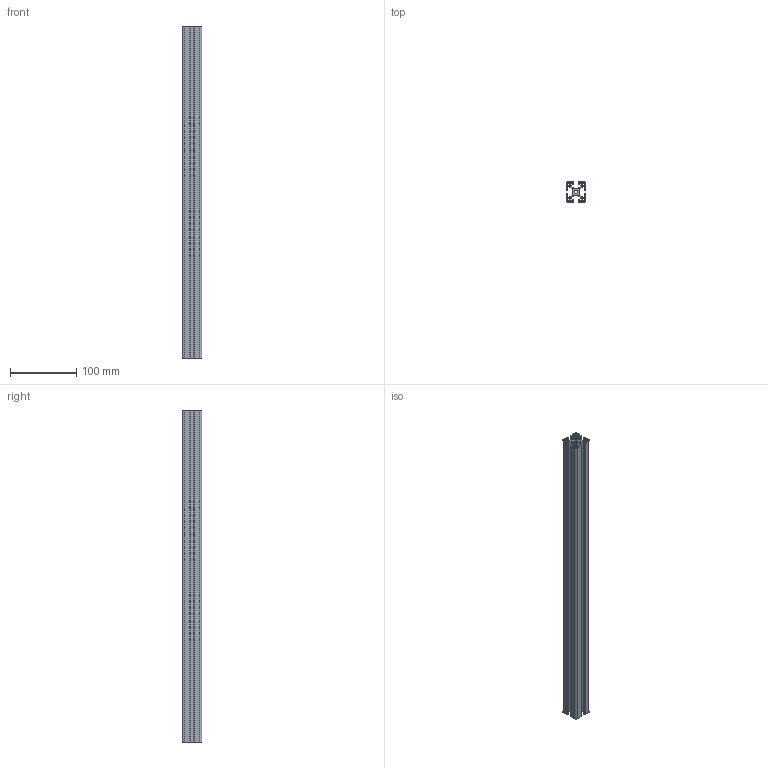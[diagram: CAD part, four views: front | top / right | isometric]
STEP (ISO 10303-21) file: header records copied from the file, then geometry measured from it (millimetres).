
FILE_DESCRIPTION (( 'STEP AP203' ), '1' );
FILE_NAME ('M ATP I6 3030L.STEP', '2012-06-04T09:13:53', ( 'alle' ), ( 'Hewlett-Packard Company' ), 'SwSTEP 2.0', 'SolidWorks 2011', '' );
FILE_SCHEMA (( 'CONFIG_CONTROL_DESIGN' ));
Length unit declared in the file: millimetre
Products named in the file (1): M ATP I6 3030L
Bounding box: 30 x 30 x 500 mm (x, y, z)
Volume: 167593.1 mm3; surface area: 168401.7 mm2
Topology: 1 solids, 1 shells, 156 faces, 462 edges, 308 vertices
Faces by surface type: cylinder 78, plane 78
Entity records: 5359 total; most frequent: DIRECTION 932, CARTESIAN_POINT 927, ORIENTED_EDGE 924, EDGE_CURVE 462, AXIS2_PLACEMENT_3D 313, VERTEX_POINT 308, VECTOR 306, LINE 306
